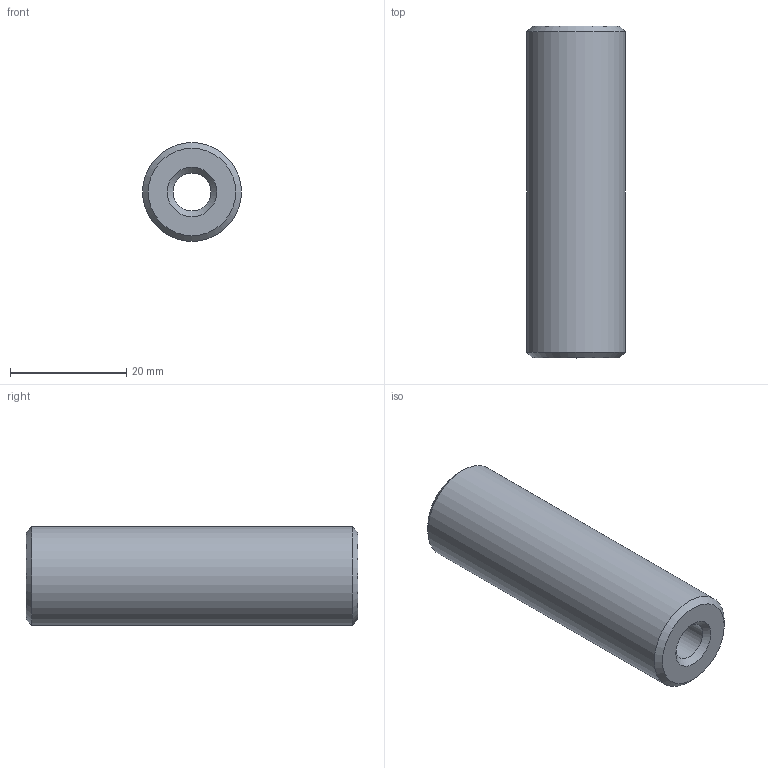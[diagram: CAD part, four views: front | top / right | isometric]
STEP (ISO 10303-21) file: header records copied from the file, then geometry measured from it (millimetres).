
FILE_DESCRIPTION( ( 'Unknown' ), '1' );
FILE_NAME( 'F:/navkite transat/construction/2016/3D ET ASSEMBLAGES/desal/DES 01.stp', 'Unknown', ( 'GMA' ), ( 'Unknown' ), 'XStep 1.0', 'Unknown', ' ' );
FILE_SCHEMA( ( 'automotive_design' ) );
Length unit declared in the file: millimetre
Products named in the file (1): 1
Bounding box: 17 x 57 x 17 mm (x, y, z)
Volume: 10972.6 mm3; surface area: 4509.3 mm2
Topology: 1 solids, 1 shells, 8 faces, 14 edges, 8 vertices
Faces by surface type: cone 4, cylinder 2, plane 2
Full cylindrical faces by diameter (mm): 6.5 x1, 17 x1
Entity records: 248 total; most frequent: DIRECTION 34, CARTESIAN_POINT 25, AXIS2_PLACEMENT_3D 17, EDGE_LOOP 16, ORIENTED_EDGE 16, FACE_OUTER_BOUND 10, STYLED_ITEM 8, PRESENTATION_STYLE_ASSIGNMENT 8
